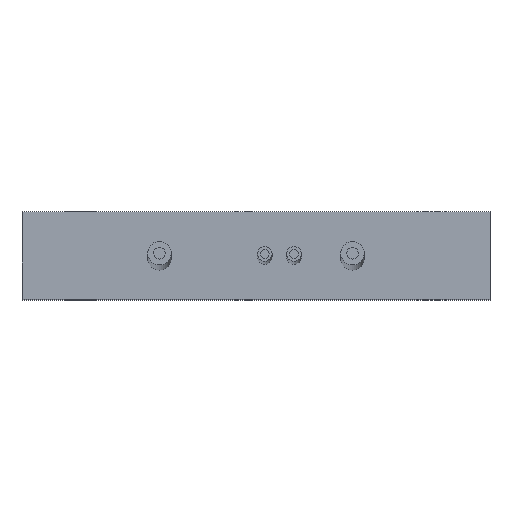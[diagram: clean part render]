
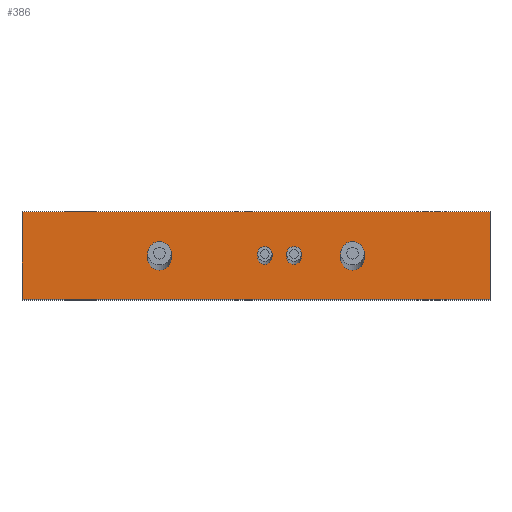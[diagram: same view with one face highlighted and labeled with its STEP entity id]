
A CAD part, top view. The second image highlights one B-rep face of the part: STEP entity #386.
In plain terms, the highlighted planar face has unit normal (0, 0, 1).
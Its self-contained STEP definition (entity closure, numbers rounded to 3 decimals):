
#13=LINE($,#608,#25);
#16=LINE($,#622,#28);
#19=LINE($,#628,#31);
#22=LINE($,#641,#34);
#25=VECTOR($,#509,15.);
#28=VECTOR($,#522,80.);
#31=VECTOR($,#527,15.);
#34=VECTOR($,#540,80.);
#49=PLANE($,#439);
#80=FACE_BOUND($,#153,.T.);
#81=FACE_BOUND($,#154,.T.);
#82=FACE_BOUND($,#155,.T.);
#83=FACE_BOUND($,#156,.T.);
#84=FACE_BOUND($,#157,.T.);
#153=EDGE_LOOP($,(#314));
#154=EDGE_LOOP($,(#315));
#155=EDGE_LOOP($,(#316));
#156=EDGE_LOOP($,(#317));
#157=EDGE_LOOP($,(#318,#319,#320,#321));
#161=CIRCLE($,#396,1.25);
#165=CIRCLE($,#404,1.25);
#169=CIRCLE($,#412,2.);
#173=CIRCLE($,#420,2.);
#185=VERTEX_POINT($,#564);
#189=VERTEX_POINT($,#576);
#193=VERTEX_POINT($,#588);
#197=VERTEX_POINT($,#600);
#198=VERTEX_POINT($,#604);
#200=VERTEX_POINT($,#607);
#206=VERTEX_POINT($,#621);
#208=VERTEX_POINT($,#627);
#217=EDGE_CURVE($,#185,#185,#161,.T.);
#221=EDGE_CURVE($,#189,#189,#165,.T.);
#225=EDGE_CURVE($,#193,#193,#169,.T.);
#229=EDGE_CURVE($,#197,#197,#173,.T.);
#231=EDGE_CURVE($,#200,#198,#13,.T.);
#238=EDGE_CURVE($,#206,#200,#16,.T.);
#241=EDGE_CURVE($,#208,#206,#19,.T.);
#248=EDGE_CURVE($,#198,#208,#22,.T.);
#314=ORIENTED_EDGE($,*,*,#217,.T.);
#315=ORIENTED_EDGE($,*,*,#221,.T.);
#316=ORIENTED_EDGE($,*,*,#225,.T.);
#317=ORIENTED_EDGE($,*,*,#229,.T.);
#318=ORIENTED_EDGE($,*,*,#248,.T.);
#319=ORIENTED_EDGE($,*,*,#241,.T.);
#320=ORIENTED_EDGE($,*,*,#238,.T.);
#321=ORIENTED_EDGE($,*,*,#231,.T.);
#386=ADVANCED_FACE($,(#80,#81,#82,#83,#84),#49,.T.);
#396=AXIS2_PLACEMENT_3D($,#565,#454,#455);
#404=AXIS2_PLACEMENT_3D($,#577,#470,#471);
#412=AXIS2_PLACEMENT_3D($,#589,#486,#487);
#420=AXIS2_PLACEMENT_3D($,#601,#502,#503);
#439=AXIS2_PLACEMENT_3D($,#648,#552,#553);
#454=DIRECTION('center_axis',(0.,0.,
-1.));
#455=DIRECTION('ref_axis',(-1.,0.,0.));
#470=DIRECTION('center_axis',(0.,0.,
-1.));
#471=DIRECTION('ref_axis',(-1.,0.,0.));
#486=DIRECTION('center_axis',(0.,0.,
-1.));
#487=DIRECTION('ref_axis',(-0.66,-0.751,0.));
#502=DIRECTION('center_axis',(0.,0.,
-1.));
#503=DIRECTION('ref_axis',(-0.66,-0.751,0.));
#509=DIRECTION($,(0.,1.,0.));
#522=DIRECTION($,(1.,0.,0.));
#527=DIRECTION($,(0.,-1.,0.));
#540=DIRECTION($,(-1.,0.,0.));
#552=DIRECTION('center_axis',(0.,0.,
1.));
#553=DIRECTION('ref_axis',(1.,0.,0.));
#564=CARTESIAN_POINT('',(55.576,13.328,81.404));
#565=CARTESIAN_POINT('Origin',(54.326,13.328,81.404));
#576=CARTESIAN_POINT('',(60.576,13.328,81.404));
#577=CARTESIAN_POINT('Origin',(59.326,13.328,81.404));
#588=CARTESIAN_POINT('',(37.644,14.58,81.404));
#589=CARTESIAN_POINT('Origin',(36.323,13.078,81.404));
#600=CARTESIAN_POINT('',(70.644,14.58,81.404));
#601=CARTESIAN_POINT('Origin',(69.323,13.078,81.404));
#604=CARTESIAN_POINT('',(92.823,21.078,81.404));
#607=CARTESIAN_POINT('',(92.823,6.078,81.404));
#608=CARTESIAN_POINT($,(92.823,21.078,81.404));
#621=CARTESIAN_POINT('',(12.823,6.078,81.404));
#622=CARTESIAN_POINT($,(92.823,6.078,81.404));
#627=CARTESIAN_POINT('',(12.823,21.078,81.404));
#628=CARTESIAN_POINT($,(12.823,6.078,81.404));
#641=CARTESIAN_POINT($,(12.823,21.078,81.404));
#648=CARTESIAN_POINT('Origin',(52.823,13.578,81.404));
